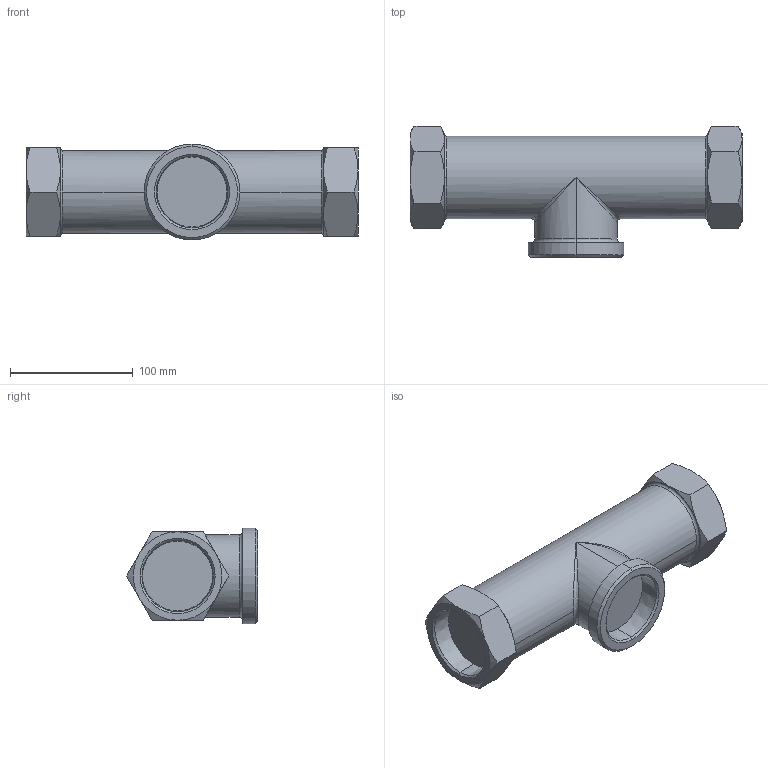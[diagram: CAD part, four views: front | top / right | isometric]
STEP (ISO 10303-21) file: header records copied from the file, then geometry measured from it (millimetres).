
FILE_DESCRIPTION (( 'STEP AP203' ), '1' );
FILE_NAME ('MS-1 50A.STEP', '2026-01-23T01:29:09', ( '' ), ( '' ), 'SwSTEP 2.0', 'SolidWorks 2024', '' );
FILE_SCHEMA (( 'CONFIG_CONTROL_DESIGN' ));
Length unit declared in the file: millimetre
Products named in the file (1): MS-1 50A
Bounding box: 270 x 106.57 x 78 mm (x, y, z)
Volume: 1015162.6 mm3; surface area: 87705.4 mm2
Topology: 1 solids, 1 shells, 73 faces, 161 edges, 92 vertices
Faces by surface type: cone 38, plane 21, torus 6, cylinder 6, bspline 2
Entity records: 2436 total; most frequent: CARTESIAN_POINT 847, DIRECTION 317, ORIENTED_EDGE 314, EDGE_CURVE 157, AXIS2_PLACEMENT_3D 142, VERTEX_POINT 92, EDGE_LOOP 79, FACE_OUTER_BOUND 73
